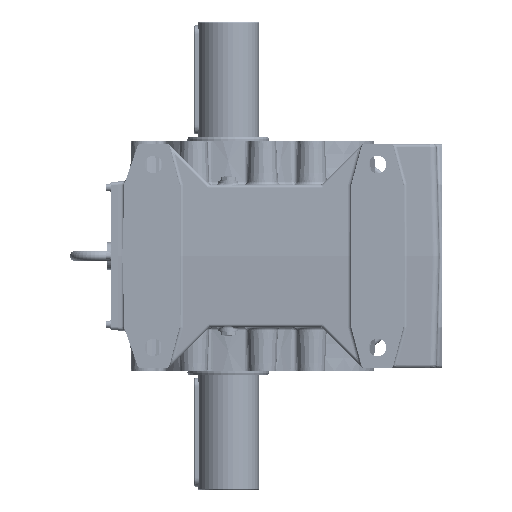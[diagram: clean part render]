
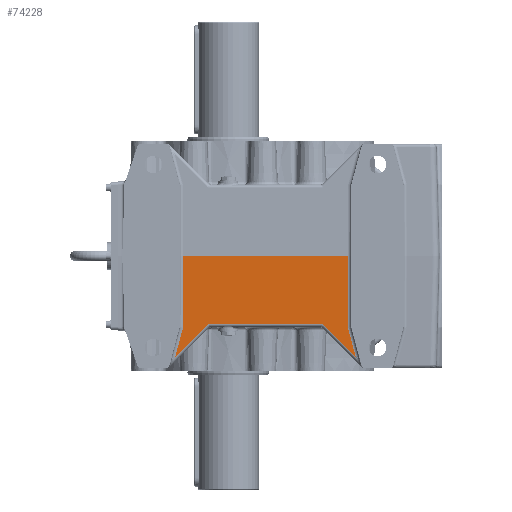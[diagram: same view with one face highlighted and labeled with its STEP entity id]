
A CAD part, left-side view. The second image highlights one B-rep face of the part: STEP entity #74228.
In plain terms, the highlighted planar face has unit normal (-1, 0, -0.026).
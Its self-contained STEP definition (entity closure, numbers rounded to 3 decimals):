
#49837=CARTESIAN_POINT('',(-192.128,-139.571,-100.131));
#49838=VERTEX_POINT('',#49837);
#49846=CARTESIAN_POINT('',(-192.128,29.571,-100.131));
#49847=VERTEX_POINT('',#49846);
#49848=CARTESIAN_POINT('',(-192.128,-139.571,-100.131));
#49849=DIRECTION('',(0.0,1.0,0.0));
#49850=VECTOR('',#49849,169.142);
#49851=LINE('',#49848,#49850);
#49852=EDGE_CURVE('',#49838,#49847,#49851,.T.);
#56232=CARTESIAN_POINT('',(-191.986,66.5,-105.524));
#56233=VERTEX_POINT('',#56232);
#56258=CARTESIAN_POINT('',(-194.75,66.5,0.0));
#56259=VERTEX_POINT('',#56258);
#56260=CARTESIAN_POINT('',(-191.986,66.5,-105.524));
#56261=DIRECTION('',(-0.026,0.0,1.));
#56262=VECTOR('',#56261,105.561);
#56263=LINE('',#56260,#56262);
#56264=EDGE_CURVE('',#56233,#56259,#56263,.T.);
#56291=CARTESIAN_POINT('',(-190.86,77.967,-148.527));
#56292=VERTEX_POINT('',#56291);
#56300=CARTESIAN_POINT('',(-190.86,77.967,-148.527));
#56301=DIRECTION('',(-0.025,-0.258,0.966));
#56302=VECTOR('',#56301,44.52);
#56303=LINE('',#56300,#56302);
#56304=EDGE_CURVE('',#56292,#56233,#56303,.T.);
#56758=CARTESIAN_POINT('',(-191.986,-176.5,-105.524));
#56759=VERTEX_POINT('',#56758);
#56853=CARTESIAN_POINT('',(-190.86,-187.967,-148.527));
#56854=VERTEX_POINT('',#56853);
#56855=CARTESIAN_POINT('',(-191.986,-176.5,-105.524));
#56856=DIRECTION('',(0.025,-0.258,-0.966));
#56857=VECTOR('',#56856,44.52);
#56858=LINE('',#56855,#56857);
#56859=EDGE_CURVE('',#56759,#56854,#56858,.T.);
#58301=CARTESIAN_POINT('',(-194.75,-176.5,0.0));
#58302=VERTEX_POINT('',#58301);
#58310=CARTESIAN_POINT('',(-194.75,-176.5,0.));
#58311=DIRECTION('',(0.026,0.0,-1.));
#58312=VECTOR('',#58311,105.561);
#58313=LINE('',#58310,#58312);
#58314=EDGE_CURVE('',#58302,#56759,#58313,.T.);
#60271=CARTESIAN_POINT('',(-190.86,-187.967,-148.527));
#60272=DIRECTION('',(-0.019,0.707,0.707));
#60273=VECTOR('',#60272,68.455);
#60274=LINE('',#60271,#60273);
#60275=EDGE_CURVE('',#56854,#49838,#60274,.T.);
#60448=CARTESIAN_POINT('',(-192.128,29.571,-100.131));
#60449=DIRECTION('',(0.019,0.707,-0.707));
#60450=VECTOR('',#60449,68.455);
#60451=LINE('',#60448,#60450);
#60452=EDGE_CURVE('',#49847,#56292,#60451,.T.);
#74182=CARTESIAN_POINT('',(-194.75,66.5,0.0));
#74183=DIRECTION('',(0.0,-1.0,0.0));
#74184=VECTOR('',#74183,243.0);
#74185=LINE('',#74182,#74184);
#74186=EDGE_CURVE('',#56259,#58302,#74185,.T.);
#74213=CARTESIAN_POINT('',(-194.749,-307.0,-0.036));
#74214=DIRECTION('',(1.,0.,0.026));
#74215=DIRECTION('',(0.026,0.,-1.));
#74216=AXIS2_PLACEMENT_3D('',#74213,#74214,#74215);
#74217=PLANE('',#74216);
#74218=ORIENTED_EDGE('',*,*,#56304,.F.);
#74219=ORIENTED_EDGE('',*,*,#60452,.F.);
#74220=ORIENTED_EDGE('',*,*,#49852,.F.);
#74221=ORIENTED_EDGE('',*,*,#60275,.F.);
#74222=ORIENTED_EDGE('',*,*,#56859,.F.);
#74223=ORIENTED_EDGE('',*,*,#58314,.F.);
#74224=ORIENTED_EDGE('',*,*,#74186,.F.);
#74225=ORIENTED_EDGE('',*,*,#56264,.F.);
#74226=EDGE_LOOP('',(#74218,#74219,#74220,#74221,#74222,#74223,#74224,#74225));
#74227=FACE_OUTER_BOUND('',#74226,.T.);
#74228=ADVANCED_FACE('',(#74227),#74217,.F.);
